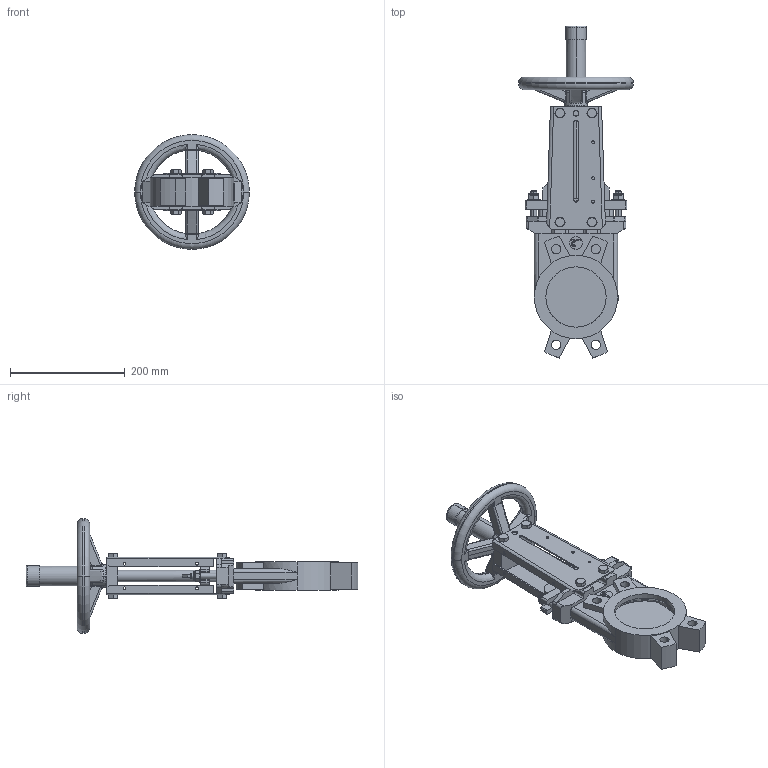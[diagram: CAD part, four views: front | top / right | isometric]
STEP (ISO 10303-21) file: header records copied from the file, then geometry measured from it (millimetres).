
FILE_DESCRIPTION (( 'STEP AP203' ), '1' );
FILE_NAME ('VG DN100.STEP', '2010-01-27T05:53:49', ( 'farex' ), ( '' ), 'SwSTEP 2.0', 'SolidWorks 2009', '' );
FILE_SCHEMA (( 'CONFIG_CONTROL_DESIGN' ));
Length unit declared in the file: millimetre
Products named in the file (1): VG DN100
Bounding box: 200 x 578.16 x 200 mm (x, y, z)
Volume: 1822501 mm3; surface area: 387028.8 mm2
Topology: 1 solids, 3 shells, 783 faces, 2078 edges, 1339 vertices
Faces by surface type: plane 346, cylinder 199, cone 135, bspline 60, torus 43
Entity records: 28687 total; most frequent: CARTESIAN_POINT 9710, ORIENTED_EDGE 4156, DIRECTION 3678, EDGE_CURVE 2078, AXIS2_PLACEMENT_3D 1341, VERTEX_POINT 1339, VECTOR 996, LINE 996
